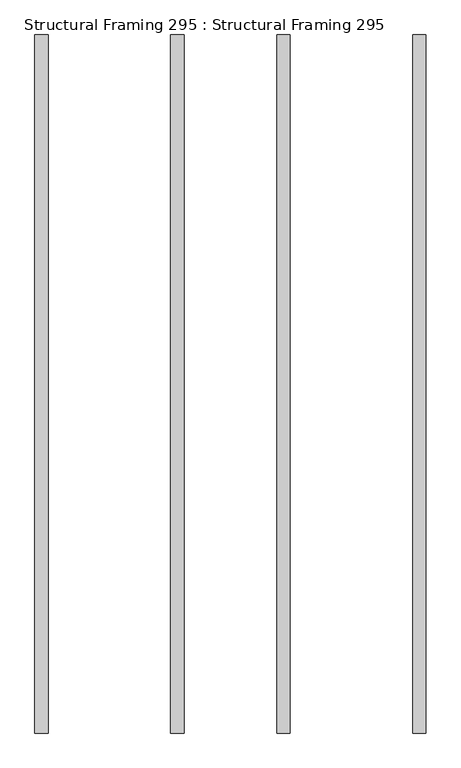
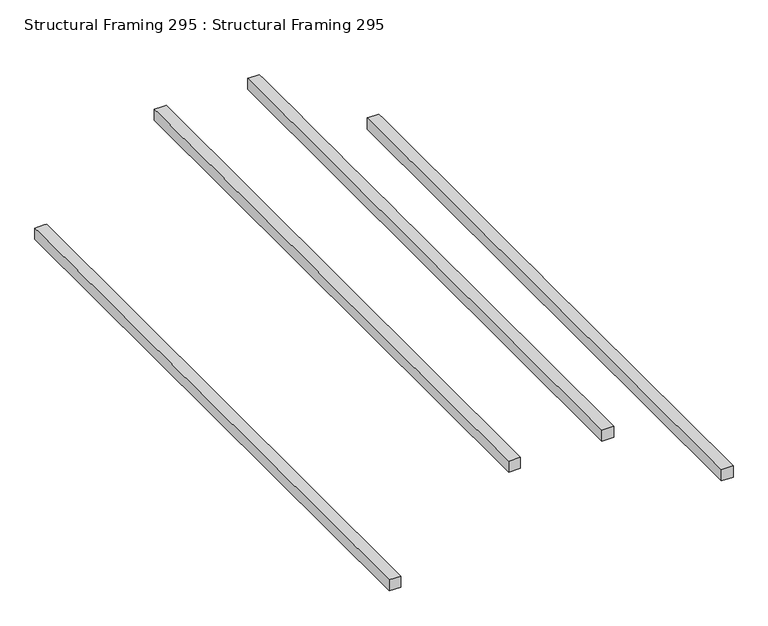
"""IFC4 building model written with IfcOpenShell, lengths in millimetres: beam geometry, Structural Framing 295 : Structural Framing 295."""

import ifcopenshell
import ifcopenshell.guid

model = None  # the IFC model being written
_history = None  # IfcOwnerHistory: only IFC2X3 demands one
_inside = {}  # id of a spatial element -> (the spatial element, [elements in it])
_under = {}  # id of a project, library or spatial element -> (it, [spatial elements below it])
_declared = {}  # id of a project -> (the project, [libraries it declares])
_typed = {}  # id of a type object -> (the type object, [elements of that type])
_made_of = {}  # id of a material, layer set ... -> (it, [elements and type objects made of it])


def new_model(schema):
    """Start an empty IFC model of exactly this schema.

    Asked for "IFC4X3", IfcOpenShell would pick the latest addendum, in which some entities
    have other attributes; the version numbers below select the first issue.
    IFC2X3 requires an IfcOwnerHistory on every rooted entity: one is made here for all.
    """
    global model, _history
    if schema == "IFC4X3":
        model = ifcopenshell.file(schema_version=(4, 3, 0, 0))
    else:
        model = ifcopenshell.file(schema=schema)
    _inside.clear()
    _under.clear()
    _declared.clear()
    _typed.clear()
    _made_of.clear()
    _history = None
    if model.schema == "IFC2X3":
        org = make("IfcOrganization", Name="unknown")
        user = make(
            "IfcPersonAndOrganization",
            ThePerson=make("IfcPerson", FamilyName="unknown"),
            TheOrganization=org,
        )
        app = make(
            "IfcApplication",
            ApplicationDeveloper=org,
            Version="unknown",
            ApplicationFullName="unknown",
            ApplicationIdentifier="unknown",
        )
        _history = make(
            "IfcOwnerHistory",
            OwningUser=user,
            OwningApplication=app,
            ChangeAction="ADDED",
            CreationDate=0,
        )
    return model


def make(cls, **values):
    """One entity of the class cls with the attributes given. An attribute that is None is left unset."""
    return model.create_entity(
        cls, **{name: value for name, value in values.items() if value is not None}
    )


def rooted(cls, **values):
    """An entity with a GlobalId (a new one), such as an element, a storey or a relation."""
    return make(cls, GlobalId=ifcopenshell.guid.new(), OwnerHistory=_history, **values)


def si_unit(unit_type, name, prefix=None):
    """IfcSIUnit, for example si_unit("LENGTHUNIT", "METRE", prefix="MILLI")."""
    return make("IfcSIUnit", UnitType=unit_type, Prefix=prefix, Name=name)


def assignment(units):
    """IfcUnitAssignment: the units of a project."""
    return None if units is None else make("IfcUnitAssignment", Units=units)


def point(xyz):
    """IfcCartesianPoint."""
    return None if xyz is None else make("IfcCartesianPoint", Coordinates=xyz)


def direction(xyz):
    """IfcDirection."""
    return None if xyz is None else make("IfcDirection", DirectionRatios=xyz)


def frame(location, z_axis=None, x_axis=None):
    """IfcAxis2Placement3D, a coordinate frame: its origin and axes. An axis left out is left unset."""
    return make(
        "IfcAxis2Placement3D",
        Location=point(location),
        Axis=direction(z_axis),
        RefDirection=direction(x_axis),
    )


def origin():
    """The frame at (0, 0, 0) with its axes left unset."""
    return frame((0.0, 0.0, 0.0))


def place(relative_to, where):
    """IfcLocalPlacement: puts the frame where relative to a parent placement (None: the world)."""
    return make(
        "IfcLocalPlacement", PlacementRelTo=relative_to, RelativePlacement=where
    )


def context(
    kind, dimensions, precision=None, world=None, true_north=None, identifier=None
):
    """IfcGeometricRepresentationContext, for example the 3D "Model" context."""
    return make(
        "IfcGeometricRepresentationContext",
        ContextIdentifier=identifier,
        ContextType=kind,
        CoordinateSpaceDimension=dimensions,
        Precision=precision,
        WorldCoordinateSystem=world,
        TrueNorth=true_north,
    )


def project(units=None, contexts=None):
    """IfcProject with its units and contexts."""
    return rooted(
        "IfcProject",
        Name="project",
        RepresentationContexts=contexts,
        UnitsInContext=assignment(units),
    )


def spatial(cls, under=None, at=None, **own):
    """A site, building, storey or space (cls), placed at a placement, below another one or the project."""
    s = rooted(cls, ObjectPlacement=at, **own)
    if under is not None:
        _under.setdefault(under.id(), (under, []))[1].append(s)
    return s


def faces_of(points, faces, orient=None, outer=None):
    """IfcFace entities. A face is a list of loops; a loop is a list of indices into points, from 0.

    orient and outer hold one flag for each loop. By default every Orientation is true, the
    first loop of a face is its IfcFaceOuterBound and the others are IfcFaceBound.
    """
    made = []
    for i, loops in enumerate(faces):
        bounds = []
        for j, loop in enumerate(loops):
            is_outer = j == 0 if outer is None else outer[i][j]
            bounds.append(
                make(
                    "IfcFaceOuterBound" if is_outer else "IfcFaceBound",
                    Bound=make("IfcPolyLoop", Polygon=[points[k] for k in loop]),
                    Orientation=True if orient is None else orient[i][j],
                )
            )
        made.append(make("IfcFace", Bounds=bounds))
    return made


def faceted_brep(points, faces, orient=None, outer=None, voids=None):
    """IfcFacetedBrep: a solid bounded by flat faces; with voids (closed shells), ...WithVoids."""
    shared = [point(p) for p in points]
    hull = make("IfcClosedShell", CfsFaces=faces_of(shared, faces, orient, outer))
    if voids is None:
        return make("IfcFacetedBrep", Outer=hull)
    return make(
        "IfcFacetedBrepWithVoids",
        Outer=hull,
        Voids=[
            make(cls, CfsFaces=faces_of(shared, fs, o, b)) for cls, fs, o, b in voids
        ],
    )


def shape(context_of_items, identifier, shape_type, items):
    """IfcShapeRepresentation: the items that make up one representation, for example the "Body"."""
    return make(
        "IfcShapeRepresentation",
        ContextOfItems=context_of_items,
        RepresentationIdentifier=identifier,
        RepresentationType=shape_type,
        Items=items,
    )


def source(mapping_origin, context_of_items, identifier, shape_type, items):
    """IfcRepresentationMap: a shape defined once, which mapped items show again and again."""
    return make(
        "IfcRepresentationMap",
        MappingOrigin=mapping_origin,
        MappedRepresentation=shape(context_of_items, identifier, shape_type, items),
    )


def transform(
    local_origin,
    x_axis=None,
    y_axis=None,
    z_axis=None,
    scale=None,
    scale2=None,
    scale3=None,
    uniform=True,
):
    """IfcCartesianTransformationOperator3D, or its non-uniform kind. x_axis, y_axis, z_axis: its Axis1, 2, 3."""
    if uniform:
        return make(
            "IfcCartesianTransformationOperator3D",
            Axis1=direction(x_axis),
            Axis2=direction(y_axis),
            LocalOrigin=point(local_origin),
            Scale=scale,
            Axis3=direction(z_axis),
        )
    return make(
        "IfcCartesianTransformationOperator3DnonUniform",
        Axis1=direction(x_axis),
        Axis2=direction(y_axis),
        LocalOrigin=point(local_origin),
        Scale=scale,
        Axis3=direction(z_axis),
        Scale2=scale2,
        Scale3=scale3,
    )


def mapped(mapping_source, mapping_target):
    """IfcMappedItem: shows the shape of a source again, moved by a transform."""
    return make(
        "IfcMappedItem", MappingSource=mapping_source, MappingTarget=mapping_target
    )


def made_of(thing, what):
    """Note that an element or type object is made of a material, layer set ...; save() writes the relation."""
    if what is not None:
        _made_of.setdefault(what.id(), (what, []))[1].append(thing)
    return thing


def element(
    cls,
    number,
    at=None,
    inside=None,
    cuts=None,
    type_object=None,
    material=None,
    context=None,
    identifier="Body",
    shape_type=None,
    held_by="IfcProductDefinitionShape",
    body=None,
    shapes=None,
    **own,
):
    """One element of the class cls, such as IfcWall. Its Tag is "e" and its number.

    at: its placement. inside: the storey or other place that contains it. cuts: it is an
    opening in that element (IfcRelVoidsElement). A single representation is given by context,
    identifier, shape_type and body (its items); several are given by shapes. held_by: the class
    of the entity that holds the representations. save() writes the other relations.
    """
    e = rooted(cls, Tag="e%d" % number, ObjectPlacement=at, **own)
    if body is not None:
        shapes = [shape(context, identifier, shape_type, body)]
    if shapes is not None:
        e.Representation = make(held_by, Representations=shapes)
    if inside is not None:
        _inside.setdefault(inside.id(), (inside, []))[1].append(e)
    if cuts is not None:
        rooted(
            "IfcRelVoidsElement", RelatingBuildingElement=cuts, RelatedOpeningElement=e
        )
    if type_object is not None:
        _typed.setdefault(type_object.id(), (type_object, []))[1].append(e)
    return made_of(e, material)


def aggregate(whole, parts):
    """IfcRelAggregates: a whole, such as a stair, and the parts it consists of."""
    return rooted("IfcRelAggregates", RelatingObject=whole, RelatedObjects=parts)


def save(model, path):
    """Write the relations noted so far, then the file.

    IfcRelAggregates (storeys below a building ...), IfcRelContainedInSpatialStructure (elements
    in a storey), IfcRelDefinesByType, IfcRelAssociatesMaterial and IfcRelDeclares: one each for
    every whole, place, type object, material and project.
    """
    for whole, parts in _under.values():
        aggregate(whole, parts)
    for where, things in _inside.values():
        rooted(
            "IfcRelContainedInSpatialStructure",
            RelatedElements=things,
            RelatingStructure=where,
        )
    for kind, things in _typed.values():
        rooted("IfcRelDefinesByType", RelatedObjects=things, RelatingType=kind)
    for what, things in _made_of.values():
        rooted("IfcRelAssociatesMaterial", RelatedObjects=things, RelatingMaterial=what)
    for by, libraries in _declared.values():
        rooted("IfcRelDeclares", RelatingContext=by, RelatedDefinitions=libraries)
    model.write(path)


def structural_framing_295_structural_framing_295_6c3cb5e9(model_context):
    return source(origin(), model_context, "Body", "Brep", [
        faceted_brep([(-1739.0115151, 3925.5508021, 656.0155568), (-1576.1967145, 3925.5508021, 656.0155568), (-1539.0115151, 3925.5508021, 656.0155568), (-1539.0115151, 3925.5508021, 456.0155568), (-1739.0115151, 3925.5508021, 456.0155568), (-1739.0115151, 3925.5508021, 542.0114061), (-1739.0115151, -6581.9491979, 656.0155568), (-1739.0115151, -6581.9491979, 456.0155568), (-1539.0115151, -6581.9491979, 456.0155568), (-1539.0115151, -6581.9491979, 656.0155568), (-1739.0115151, 3785.5508021, 656.0155568), (-1739.0115151, 3125.5508021, 656.0155568), (-1739.0115151, 2985.5508021, 656.0155568), (-1739.0115151, 2325.5508021, 656.0155568), (-1739.0115151, 2185.5508021, 656.0155568), (-1739.0115151, 1525.5508021, 656.0155568), (-1739.0115151, 1385.5508021, 656.0155568), (-1739.0115151, 725.5508021, 656.0155568), (-1739.0115151, 585.5508021, 656.0155568), (-1739.0115151, -74.4491979, 656.0155568), (-1739.0115151, -214.4491979, 656.0155568), (-1739.0115151, -874.4491979, 656.0155568), (-1739.0115151, -1014.4491979, 656.0155568)], [[[0, 1, 2, 3, 4, 5]], [[6, 7, 8, 9]], [[2, 1, 0, 10, 11, 12, 13, 14, 15, 16, 17, 18, 19, 20, 21, 22, 6, 9]], [[3, 2, 9, 8]], [[4, 3, 8, 7]], [[0, 5, 4, 7, 6, 22, 21, 20, 19, 18, 17, 16, 15, 14, 13, 12, 11, 10]]]),
        faceted_brep([(4152.5693297, 3925.5508021, 656.0155568), (4152.5693297, 3925.5508021, 542.0114061), (4152.5693297, 3925.5508021, 456.0155568), (3952.5693297, 3925.5508021, 456.0155568), (3952.5693297, 3925.5508021, 656.0155568), (3989.754529, 3925.5508021, 656.0155568), (4152.5693297, -6581.9491979, 656.0155568), (3952.5693297, -6581.9491979, 656.0155568), (3952.5693297, -6581.9491979, 456.0155568), (4152.5693297, -6581.9491979, 456.0155568), (4152.5693297, 3785.5508021, 656.0155568), (4152.5693297, 3125.5508021, 656.0155568), (4152.5693297, 2985.5508021, 656.0155568), (4152.5693297, 2325.5508021, 656.0155568), (4152.5693297, 2185.5508021, 656.0155568), (4152.5693297, 1525.5508021, 656.0155568), (4152.5693297, 1385.5508021, 656.0155568), (4152.5693297, 725.5508021, 656.0155568), (4152.5693297, 585.5508021, 656.0155568), (4152.5693297, -74.4491979, 656.0155568), (4152.5693297, -214.4491979, 656.0155568), (4152.5693297, -874.4491979, 656.0155568), (4152.5693297, -1014.4491979, 656.0155568)], [[[0, 1, 2, 3, 4, 5]], [[6, 7, 8, 9]], [[2, 1, 0, 10, 11, 12, 13, 14, 15, 16, 17, 18, 19, 20, 21, 22, 6, 9]], [[3, 2, 9, 8]], [[4, 3, 8, 7]], [[0, 5, 4, 7, 6, 22, 21, 20, 19, 18, 17, 16, 15, 14, 13, 12, 11, 10]]]),
        faceted_brep([(308.8685956, 3925.5508021, 2089.9566477), (471.6833963, 3925.5508021, 2089.9566477), (508.8685956, 3925.5508021, 2089.9566477), (508.8685956, 3925.5508021, 1889.9566477), (308.8685956, 3925.5508021, 1889.9566477), (308.8685956, 3925.5508021, 1975.9524969), (308.8685956, -6581.9491979, 2089.9566477), (308.8685956, -6581.9491979, 1889.9566477), (508.8685956, -6581.9491979, 1889.9566477), (508.8685956, -6581.9491979, 2089.9566477), (308.8685956, 3785.5508021, 2089.9566477), (308.8685956, 3125.5508021, 2089.9566477), (308.8685956, 2985.5508021, 2089.9566477), (308.8685956, 2325.5508021, 2089.9566477), (308.8685956, 2185.5508021, 2089.9566477), (308.8685956, 1525.5508021, 2089.9566477), (308.8685956, 1385.5508021, 2089.9566477), (308.8685956, 725.5508021, 2089.9566477), (308.8685956, 585.5508021, 2089.9566477), (308.8685956, -74.4491979, 2089.9566477), (308.8685956, -214.4491979, 2089.9566477), (308.8685956, -874.4491979, 2089.9566477), (308.8685956, -1014.4491979, 2089.9566477)], [[[0, 1, 2, 3, 4, 5]], [[6, 7, 8, 9]], [[2, 1, 0, 10, 11, 12, 13, 14, 15, 16, 17, 18, 19, 20, 21, 22, 6, 9]], [[3, 2, 9, 8]], [[4, 3, 8, 7]], [[0, 5, 4, 7, 6, 22, 21, 20, 19, 18, 17, 16, 15, 14, 13, 12, 11, 10]]]),
        faceted_brep([(2104.6892189, 3925.5508021, 2089.9566477), (2104.6892189, 3925.5508021, 1975.9524969), (2104.6892189, 3925.5508021, 1889.9566477), (1904.6892189, 3925.5508021, 1889.9566477), (1904.6892189, 3925.5508021, 2089.9566477), (1941.8744183, 3925.5508021, 2089.9566477), (2104.6892189, -6581.9491979, 2089.9566477), (1904.6892189, -6581.9491979, 2089.9566477), (1904.6892189, -6581.9491979, 1889.9566477), (2104.6892189, -6581.9491979, 1889.9566477), (2104.6892189, 3785.5508021, 2089.9566477), (2104.6892189, 3125.5508021, 2089.9566477), (2104.6892189, 2985.5508021, 2089.9566477), (2104.6892189, 2325.5508021, 2089.9566477), (2104.6892189, 2185.5508021, 2089.9566477), (2104.6892189, 1525.5508021, 2089.9566477), (2104.6892189, 1385.5508021, 2089.9566477), (2104.6892189, 725.5508021, 2089.9566477), (2104.6892189, 585.5508021, 2089.9566477), (2104.6892189, -74.4491979, 2089.9566477), (2104.6892189, -214.4491979, 2089.9566477), (2104.6892189, -874.4491979, 2089.9566477), (2104.6892189, -1014.4491979, 2089.9566477)], [[[0, 1, 2, 3, 4, 5]], [[6, 7, 8, 9]], [[2, 1, 0, 10, 11, 12, 13, 14, 15, 16, 17, 18, 19, 20, 21, 22, 6, 9]], [[3, 2, 9, 8]], [[4, 3, 8, 7]], [[0, 5, 4, 7, 6, 22, 21, 20, 19, 18, 17, 16, 15, 14, 13, 12, 11, 10]]]),
    ])


if __name__ == "__main__":
    model = new_model("IFC4")
    model_context = context("Model", 3, world=origin())
    ifc_project = project(units=[si_unit("LENGTHUNIT", "METRE", prefix="MILLI")], contexts=[model_context])
    site = spatial("IfcSite", under=ifc_project)
    building = spatial("IfcBuilding", under=site)
    placement = place(None, origin())
    structural_framing_295_structural_framing_295_shape = structural_framing_295_structural_framing_295_6c3cb5e9(model_context)
    element("IfcBeam", 1, ObjectType="Structural Framing 295 : Structural Framing 295", at=placement, inside=building, context=model_context, shape_type="MappedRepresentation", body=[
        mapped(structural_framing_295_structural_framing_295_shape, transform((0.0, 0.0, 0.0), x_axis=(1.0, 0.0, 0.0), y_axis=(0.0, 1.0, 0.0), z_axis=(0.0, 0.0, 1.0))),
    ])
    save(model, "model.ifc")
